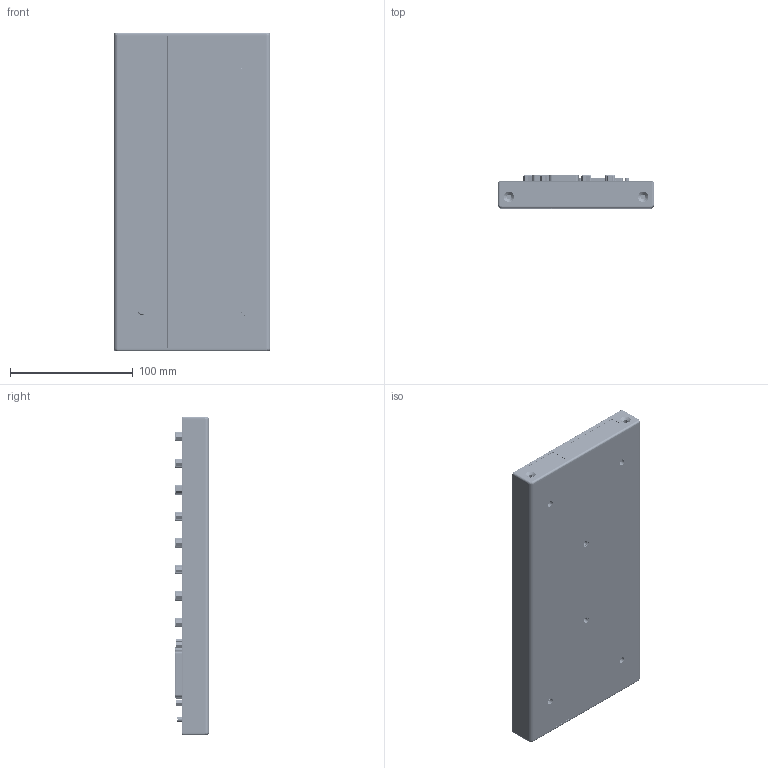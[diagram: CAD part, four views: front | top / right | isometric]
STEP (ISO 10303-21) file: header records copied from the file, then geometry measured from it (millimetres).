
FILE_DESCRIPTION((''),'2;1');
FILE_NAME('CU_UMI-7774','2009-02-12T',('dcrowder'),(''),'PRO/ENGINEER BY PARAMETRIC TECHNOLOGY CORPORATION, 2006080','PRO/ENGINEER BY PARAMETRIC TECHNOLOGY CORPORATION, 2006080','');
FILE_SCHEMA(('CONFIG_CONTROL_DESIGN'));
Products named in the file (1): CU_UMI-7774
Bounding box: 127 x 27.27 x 259.08 mm (x, y, z)
Volume: 307249.6 mm3; surface area: 206266.6 mm2
Topology: 65 solids, 65 shells, 6638 faces, 15940 edges, 10151 vertices
Faces by surface type: plane 3686, cylinder 2368, cone 202, torus 200, bspline 128, sphere 54
Entity records: 194553 total; most frequent: CARTESIAN_POINT 36816, DIRECTION 33700, ORIENTED_EDGE 31452, EDGE_CURVE 15726, AXIS2_PLACEMENT_3D 11702, VECTOR 10296, LINE 10296, VERTEX_POINT 10265
